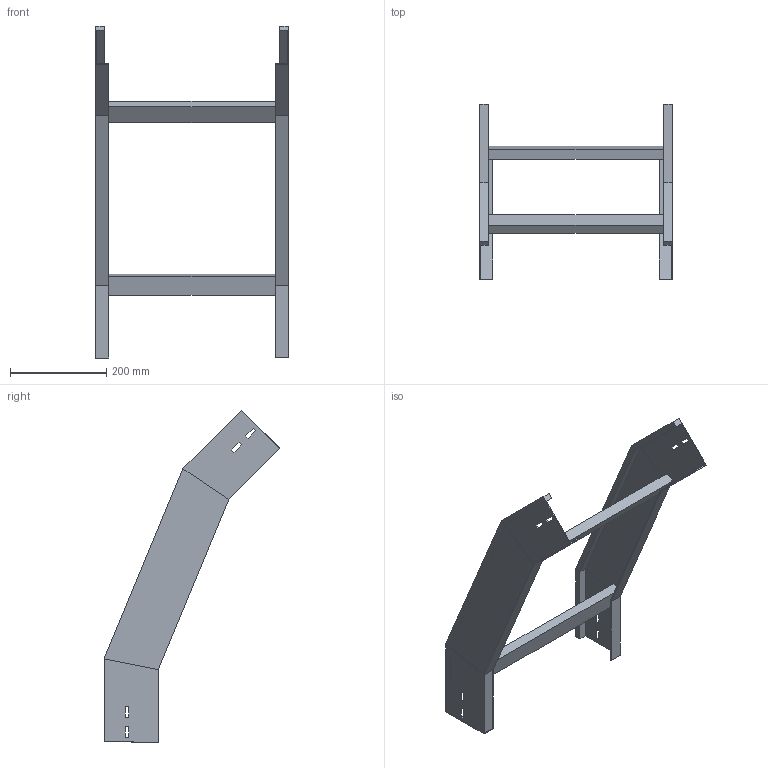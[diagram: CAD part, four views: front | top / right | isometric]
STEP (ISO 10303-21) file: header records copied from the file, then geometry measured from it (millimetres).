
FILE_DESCRIPTION (( 'STEP AP214' ), '1' );
FILE_NAME ('34B5J400.step', '2025-02-21T14:52:42', ( '' ), ( '' ), 'SwSTEP 2.0', 'SolidWorks 2023', '' );
FILE_SCHEMA (( 'AUTOMOTIVE_DESIGN' ));
Length unit declared in the file: millimetre
Products named in the file (3): LONGH.DISCESA_45°_H112.5_R500; 34B5J400; TRAVERSINO_400
Assembly tree (5 placements, depth 2):
  34B5J400
    LONGH.DISCESA_45°_H112.5_R500  x2
    TRAVERSINO_400  x3
Bounding box: 400 x 365.13 x 689.46 mm (x, y, z)
Volume: 1650496.3 mm3; surface area: 599766.6 mm2
Topology: 5 solids, 5 shells, 102 faces, 244 edges, 152 vertices
Faces by surface type: plane 102
Entity records: 1480 total; most frequent: CARTESIAN_POINT 244, ORIENTED_EDGE 232, DIRECTION 228, EDGE_CURVE 116, VECTOR 116, LINE 116, VERTEX_POINT 72, EDGE_LOOP 56
